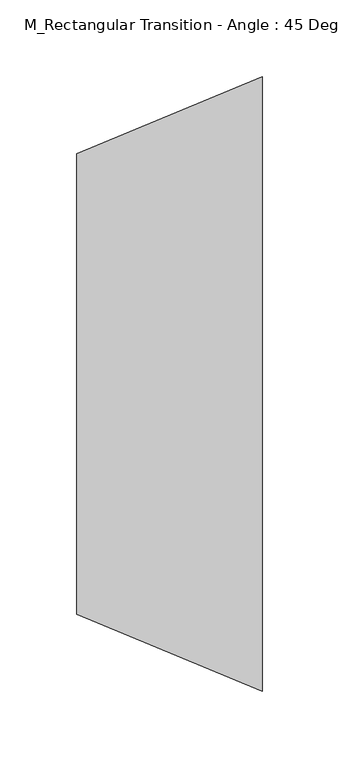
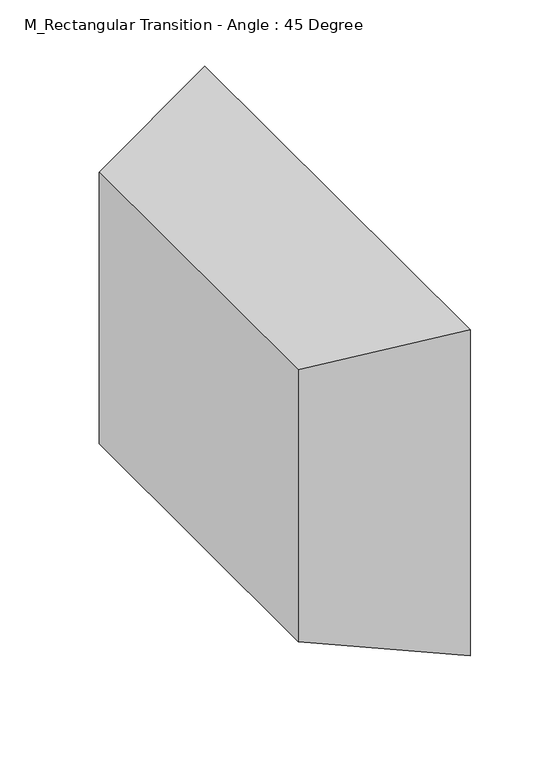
"""IFC4 building model written with IfcOpenShell, lengths in millimetres: duct fitting geometry, M_Rectangular Transition - Angle : 45 Degree."""

from ifc_helpers import new_model, si_unit, origin, place, context, project, spatial, faceted_brep, source, transform, mapped, element, save


def m_rectangular_transition_angle_45_degree_f69d63e0(model_context):
    return source(origin(), model_context, "Body", "Brep", [
        faceted_brep([(120.7106781, -200.0, 150.0), (120.7106781, -200.0, -150.0), (120.7106781, 200.0, -150.0), (120.7106781, 200.0, 150.0), (0.0, -150.0, 125.0), (0.0, 150.0, 125.0), (0.0, 150.0, -125.0), (0.0, -150.0, -125.0)], [[[0, 1, 2, 3]], [[4, 5, 6, 7]], [[4, 7, 1, 0]], [[7, 6, 2, 1]], [[6, 5, 3, 2]], [[5, 4, 0, 3]]]),
    ])


if __name__ == "__main__":
    model = new_model("IFC4")
    model_context = context("Model", 3, world=origin())
    ifc_project = project(units=[si_unit("LENGTHUNIT", "METRE", prefix="MILLI")], contexts=[model_context])
    site = spatial("IfcSite", under=ifc_project)
    building = spatial("IfcBuilding", under=site)
    placement = place(None, origin())
    m_rectangular_transition_angle_45_degree_shape = m_rectangular_transition_angle_45_degree_f69d63e0(model_context)
    element("IfcDuctFitting", 1, ObjectType="M_Rectangular Transition - Angle : 45 Degree", at=placement, inside=building, context=model_context, shape_type="MappedRepresentation", body=[
        mapped(m_rectangular_transition_angle_45_degree_shape, transform((0.0, 0.0, 0.0), x_axis=(1.0, 0.0, 0.0), y_axis=(0.0, 1.0, 0.0), z_axis=(0.0, 0.0, 1.0))),
    ])
    save(model, "model.ifc")
